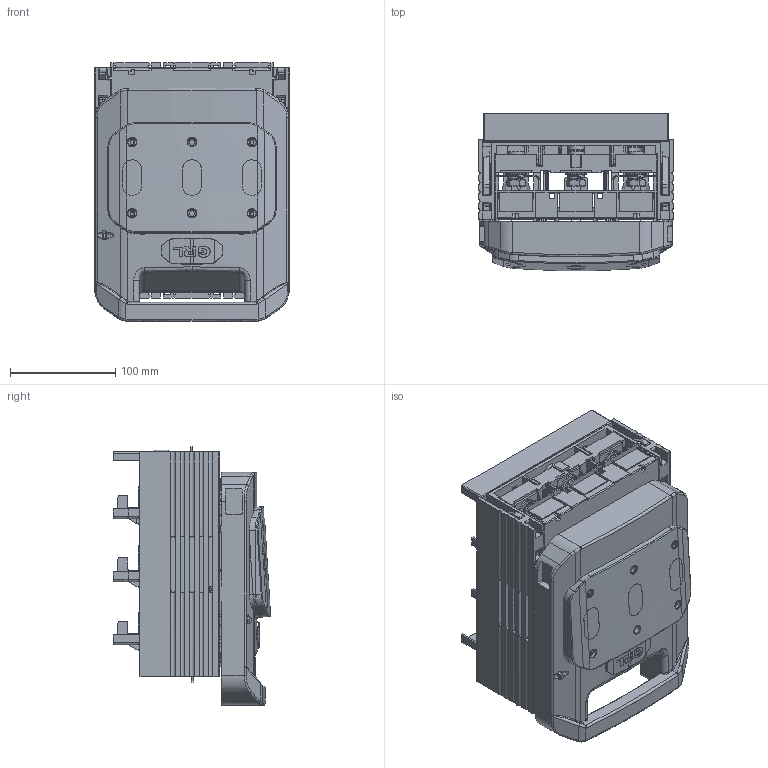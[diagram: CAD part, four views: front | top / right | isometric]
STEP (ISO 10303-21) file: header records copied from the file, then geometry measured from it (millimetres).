
FILE_DESCRIPTION(/* description */ (''),/* implementation_level */ '2;1');
FILE_NAME(/* name */ 'DNH1-250-31 新外观 总装 上端至系统 -带铅封锁-外发',/* time_stamp */ '2025-01-09T09:53:58+08:00',/* author */ (''),/* organization */ (''),/* preprocessor_version */ 'ST-DEVELOPER v19.2',/* originating_system */ 'Rhino 8.2',/* authorisation */ '');
FILE_SCHEMA (('CONFIG_CONTROL_DESIGN'));
Products named in the file (1): Document
Bounding box: 184.7 x 149.62 x 246.12 mm (x, y, z)
Surface area: 507562.6 mm2 (no closed solid volume)
Topology: 0 solids, 81 shells, 1760 faces, 9295 edges, 7374 vertices
Faces by surface type: plane 1074, cylinder 509, bspline 177
Entity records: 112995 total; most frequent: CARTESIAN_POINT 56628, ORIENTED_EDGE 13094, EDGE_CURVE 9293, B_SPLINE_CURVE_WITH_KNOTS 7466, VERTEX_POINT 7374, DIRECTION 4965, AXIS2_PLACEMENT_3D 3274, EDGE_LOOP 1955
